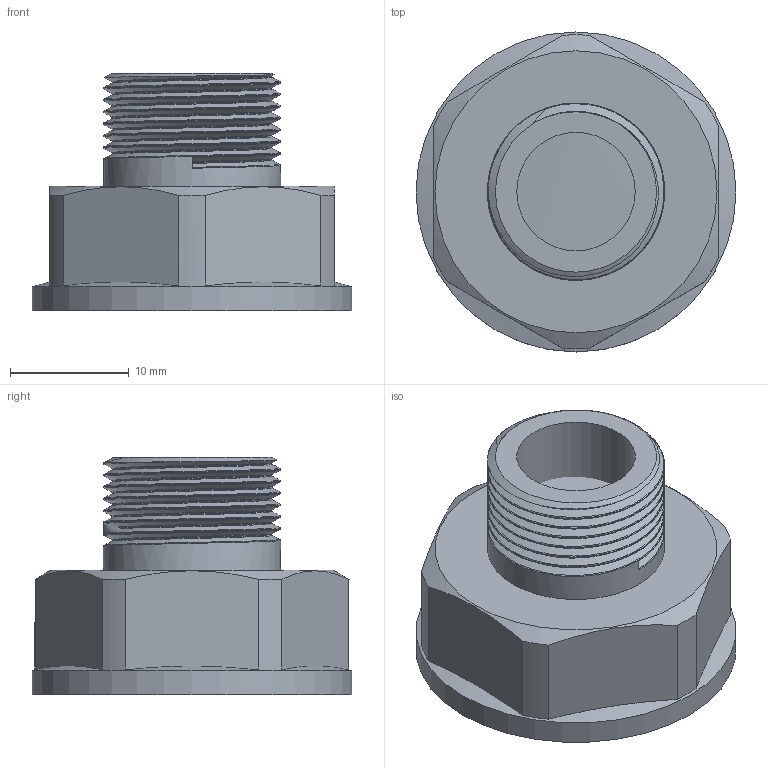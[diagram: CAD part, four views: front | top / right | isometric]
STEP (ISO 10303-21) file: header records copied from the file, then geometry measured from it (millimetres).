
FILE_DESCRIPTION(/* description */ (''),/* implementation_level */ '2;1');
FILE_NAME(/* name */ 'C:\Users\Doom\Desktop\Фадотех\Резьба\P03 18.03.2020\P03 18.03.2020.stp',/* time_stamp */ '2022-01-11T23:52:14+02:00',/* author */ ('Doom'),/* organization */ (''),/* preprocessor_version */ 'ST-DEVELOPER v18',/* originating_system */ 'Autodesk Inventor 2020',/* authorisation */ '');
FILE_SCHEMA (('AUTOMOTIVE_DESIGN { 1 0 10303 214 3 1 1 }'));
Length unit declared in the file: millimetre
Products named in the file (1): P03 18.03.2020
Bounding box: 27 x 27 x 20 mm (x, y, z)
Volume: 4042 mm3; surface area: 5365.7 mm2
Topology: 2 solids, 2 shells, 56 faces, 157 edges, 105 vertices
Faces by surface type: cylinder 27, plane 13, bspline 12, cone 4
Full cylindrical faces by diameter (mm): 10 x1, 14.95 x8, 18.26 x6, 20.95 x2, 27 x1
Entity records: 8506 total; most frequent: CARTESIAN_POINT 7181, ORIENTED_EDGE 306, DIRECTION 213, EDGE_CURVE 153, VERTEX_POINT 103, AXIS2_PLACEMENT_3D 88, EDGE_LOOP 62, B_SPLINE_CURVE_WITH_KNOTS 61
